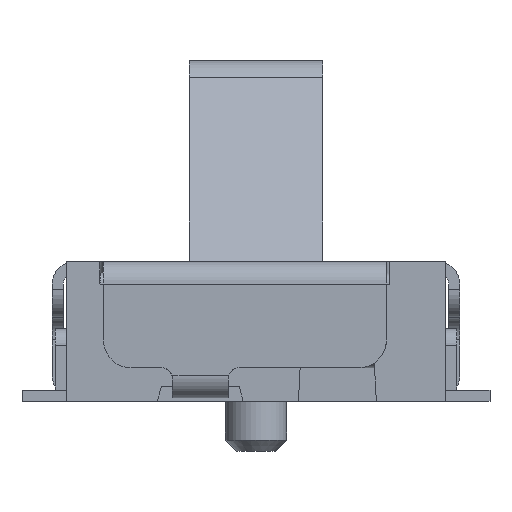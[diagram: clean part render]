
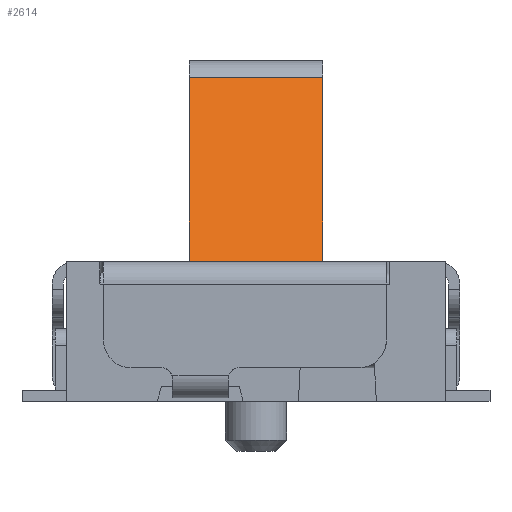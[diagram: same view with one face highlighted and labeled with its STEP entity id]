
A CAD part, front view. The second image highlights one B-rep face of the part: STEP entity #2614.
In plain terms, the highlighted planar face has unit normal (0, -0.866, 0.5).
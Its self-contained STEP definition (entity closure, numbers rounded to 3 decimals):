
#2614 = ADVANCED_FACE ( 'NONE', ( #7762 ), #7761, .F. ) ;
#2615 = EDGE_LOOP ( 'NONE', ( #2616, #2617, #2671, #2672 ) ) ;
#2616 = ORIENTED_EDGE ( 'NONE', *, *, #3490, .F. ) ;
#2617 = ORIENTED_EDGE ( 'NONE', *, *, #3546, .F. ) ;
#2671 = ORIENTED_EDGE ( 'NONE', *, *, #3573, .F. ) ;
#2672 = ORIENTED_EDGE ( 'NONE', *, *, #2673, .T. ) ;
#2673 = EDGE_CURVE ( 'NONE', #3571, #3491, #7873, .T. ) ;
#3490 = EDGE_CURVE ( 'NONE', #3518, #3491, #9364, .T. ) ;
#3491 = VERTEX_POINT ( 'NONE', #9360 ) ;
#3518 = VERTEX_POINT ( 'NONE', #9416 ) ;
#3546 = EDGE_CURVE ( 'NONE', #3565, #3518, #9442, .T. ) ;
#3565 = VERTEX_POINT ( 'NONE', #9531 ) ;
#3571 = VERTEX_POINT ( 'NONE', #9520 ) ;
#3573 = EDGE_CURVE ( 'NONE', #3571, #3565, #9519, .T. ) ;
#7761 = PLANE ( 'NONE',  #7824 ) ;
#7762 = FACE_OUTER_BOUND ( 'NONE', #2615, .T. ) ;
#7821 = DIRECTION ( 'NONE',  ( -1., 0., 0. ) ) ;
#7822 = DIRECTION ( 'NONE',  ( 0., 0.866, -0.5 ) ) ;
#7823 = CARTESIAN_POINT ( 'NONE',  ( 63.337, 45.405, 1.112 ) ) ;
#7824 = AXIS2_PLACEMENT_3D ( 'NONE', #7823, #7822, #7821 ) ;
#7867 = DIRECTION ( 'NONE',  ( 0., -0.5, -0.866 ) ) ;
#7868 = VECTOR ( 'NONE', #7867, 1000. ) ;
#7869 = CARTESIAN_POINT ( 'NONE',  ( 62.137, 45.825, 1.84 ) ) ;
#7873 = LINE ( 'NONE', #7869, #7868 ) ;
#9360 = CARTESIAN_POINT ( 'NONE',  ( 62.137, 45.405, 1.112 ) ) ;
#9361 = DIRECTION ( 'NONE',  ( -1., 0., 0. ) ) ;
#9362 = VECTOR ( 'NONE', #9361, 1000. ) ;
#9363 = CARTESIAN_POINT ( 'NONE',  ( 62.737, 45.405, 1.112 ) ) ;
#9364 = LINE ( 'NONE', #9363, #9362 ) ;
#9416 = CARTESIAN_POINT ( 'NONE',  ( 63.337, 45.405, 1.112 ) ) ;
#9439 = DIRECTION ( 'NONE',  ( 0., -0.5, -0.866 ) ) ;
#9440 = VECTOR ( 'NONE', #9439, 1000. ) ;
#9441 = CARTESIAN_POINT ( 'NONE',  ( 63.337, 45.922, 2.009 ) ) ;
#9442 = LINE ( 'NONE', #9441, #9440 ) ;
#9516 = DIRECTION ( 'NONE',  ( 1., 0., 0. ) ) ;
#9517 = VECTOR ( 'NONE', #9516, 1000. ) ;
#9518 = CARTESIAN_POINT ( 'NONE',  ( 62.737, 46.44, 2.906 ) ) ;
#9519 = LINE ( 'NONE', #9518, #9517 ) ;
#9520 = CARTESIAN_POINT ( 'NONE',  ( 62.137, 46.44, 2.906 ) ) ;
#9531 = CARTESIAN_POINT ( 'NONE',  ( 63.337, 46.44, 2.906 ) ) ;
